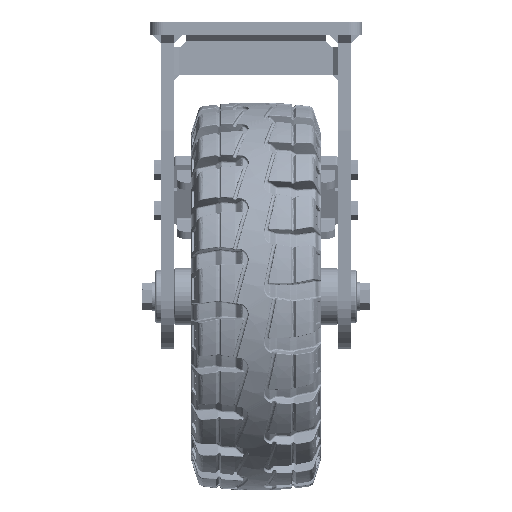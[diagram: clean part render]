
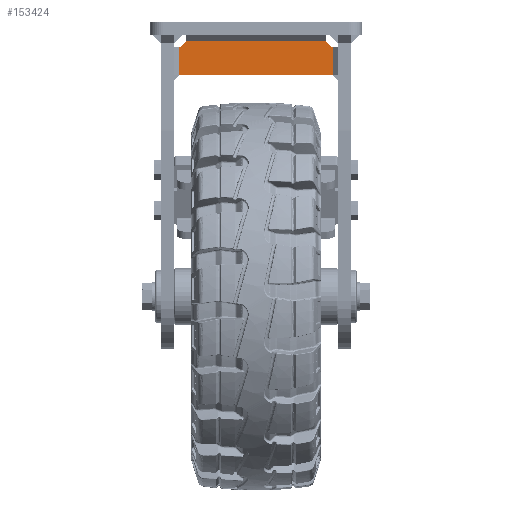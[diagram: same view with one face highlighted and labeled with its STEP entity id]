
A CAD part, left-side view. The second image highlights one B-rep face of the part: STEP entity #153424.
In plain terms, the highlighted planar face has unit normal (-1, 0, 0).
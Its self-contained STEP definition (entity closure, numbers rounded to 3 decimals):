
#19818=PLANE('',#163285);
#31344=FACE_OUTER_BOUND('',#41054,.T.);
#41054=EDGE_LOOP('',(#105686,#105687,#105688,#105689,#105690,#105691));
#51108=LINE('',#202212,#55858);
#51116=LINE('',#202252,#55866);
#51117=LINE('',#202253,#55867);
#51118=LINE('',#202254,#55868);
#55858=VECTOR('',#174314,10.);
#55866=VECTOR('',#174354,10.);
#55867=VECTOR('',#174355,10.);
#55868=VECTOR('',#174356,10.);
#60601=CIRCLE('',#163275,10.);
#60606=CIRCLE('',#163281,10.);
#67381=VERTEX_POINT('',#202206);
#67383=VERTEX_POINT('',#202210);
#67390=VERTEX_POINT('',#202227);
#67391=VERTEX_POINT('',#202229);
#67396=VERTEX_POINT('',#202241);
#67397=VERTEX_POINT('',#202243);
#81775=EDGE_CURVE('',#67381,#67383,#51108,.T.);
#81783=EDGE_CURVE('',#67391,#67390,#60601,.T.);
#81790=EDGE_CURVE('',#67397,#67396,#60606,.T.);
#81795=EDGE_CURVE('',#67390,#67381,#51116,.T.);
#81796=EDGE_CURVE('',#67383,#67397,#51117,.T.);
#81797=EDGE_CURVE('',#67396,#67391,#51118,.T.);
#105686=ORIENTED_EDGE('',*,*,#81795,.T.);
#105687=ORIENTED_EDGE('',*,*,#81775,.T.);
#105688=ORIENTED_EDGE('',*,*,#81796,.T.);
#105689=ORIENTED_EDGE('',*,*,#81790,.T.);
#105690=ORIENTED_EDGE('',*,*,#81797,.T.);
#105691=ORIENTED_EDGE('',*,*,#81783,.T.);
#153424=ADVANCED_FACE('',(#31344),#19818,.T.);
#163275=AXIS2_PLACEMENT_3D('',#202230,#174329,#174330);
#163281=AXIS2_PLACEMENT_3D('',#202244,#174343,#174344);
#163285=AXIS2_PLACEMENT_3D('',#202251,#174352,#174353);
#174314=DIRECTION('',(0.,-1.,0.));
#174329=DIRECTION('center_axis',(1.,0.,0.));
#174330=DIRECTION('ref_axis',(0.,0.,
1.));
#174343=DIRECTION('center_axis',(1.,0.,0.));
#174344=DIRECTION('ref_axis',(0.,-1.,0.));
#174352=DIRECTION('center_axis',(-1.,0.,0.));
#174353=DIRECTION('ref_axis',(0.,-1.,0.));
#174354=DIRECTION('',(0.,0.,-1.));
#174355=DIRECTION('',(0.,0.,1.));
#174356=DIRECTION('',(0.,1.,0.));
#202206=CARTESIAN_POINT('',(-5.,58.,-30.));
#202210=CARTESIAN_POINT('',(-5.,-58.,-30.));
#202212=CARTESIAN_POINT('',(-5.,62.,-30.));
#202227=CARTESIAN_POINT('',(-5.,58.,-9.165));
#202229=CARTESIAN_POINT('',(-5.,52.835,-4.));
#202230=CARTESIAN_POINT('Origin',(-5.,62.,0.));
#202241=CARTESIAN_POINT('',(-5.,-52.835,-4.));
#202243=CARTESIAN_POINT('',(-5.,-58.,-9.165));
#202244=CARTESIAN_POINT('Origin',(-5.,-62.,0.));
#202251=CARTESIAN_POINT('Origin',(-5.,0.,
-15.));
#202252=CARTESIAN_POINT('',(-5.,58.,-66.875));
#202253=CARTESIAN_POINT('',(-5.,-58.,-66.875));
#202254=CARTESIAN_POINT('',(-5.,0.,-4.));
